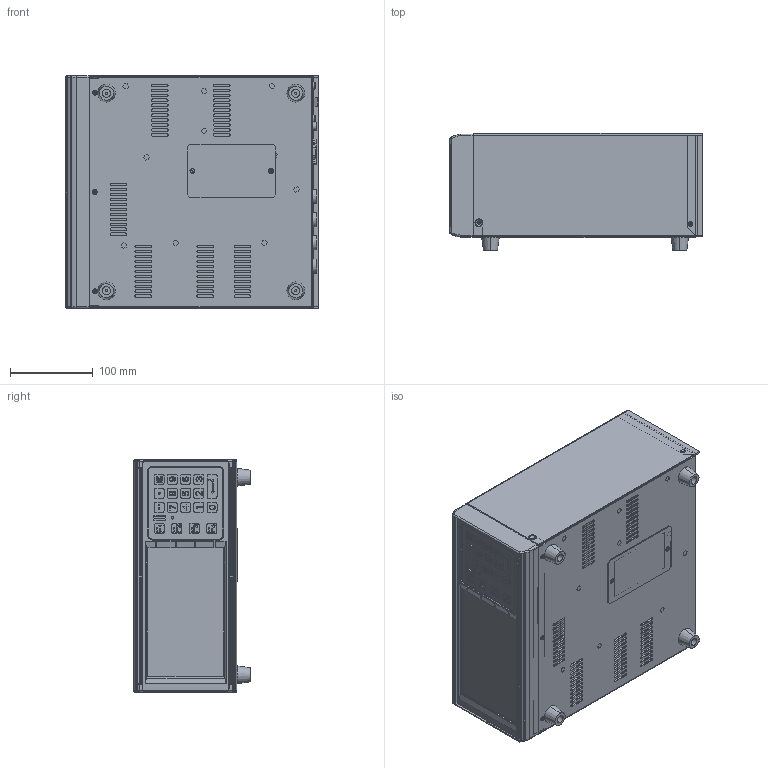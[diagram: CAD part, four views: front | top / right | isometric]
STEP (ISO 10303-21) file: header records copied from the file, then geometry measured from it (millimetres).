
FILE_DESCRIPTION (( 'STEP AP214' ), '1' );
FILE_NAME ('ML-16PT_FULL_V2_Part.STEP', '2020-10-13T07:46:16', ( 'ysgoodman' ), ( '' ), 'SwSTEP 2.0', 'SolidWorks 2014', '' );
FILE_SCHEMA (( 'AUTOMOTIVE_DESIGN' ));
Length unit declared in the file: millimetre
Products named in the file (1): ML-16PT_FULL_V2_Part
Bounding box: 305 x 141.3 x 281 mm (x, y, z)
Surface area: 687121.9 mm2 (no closed solid volume)
Topology: 0 solids, 149 shells, 1841 faces, 8399 edges, 6595 vertices
Faces by surface type: plane 946, cylinder 710, torus 77, cone 53, bspline 53, sphere 2
Entity records: 115017 total; most frequent: CARTESIAN_POINT 27556, DIRECTION 13493, ORIENTED_EDGE 12042, EDGE_CURVE 8382, VERTEX_POINT 6595, VECTOR 5529, LINE 5529, AXIS2_PLACEMENT_3D 3982
